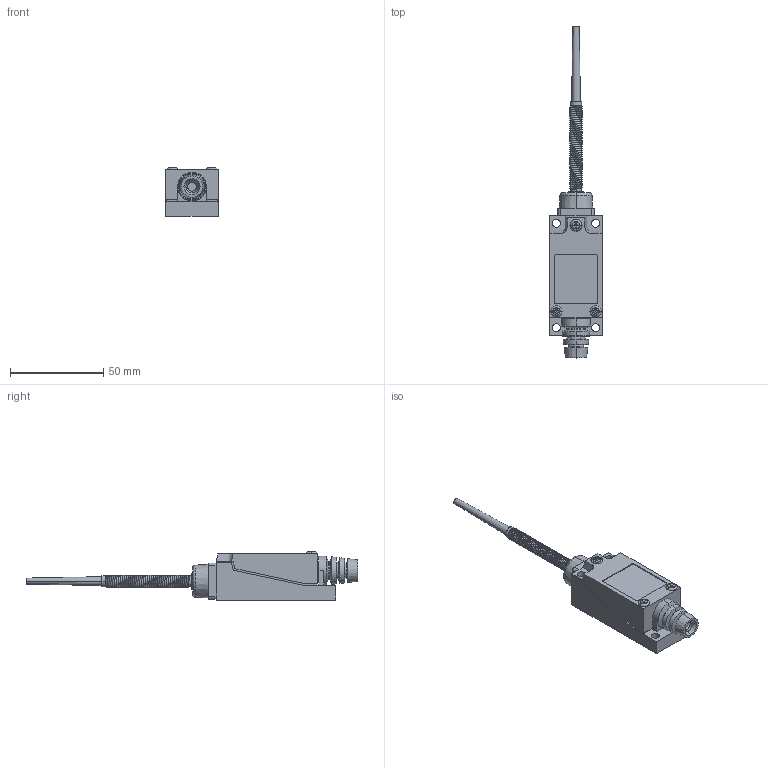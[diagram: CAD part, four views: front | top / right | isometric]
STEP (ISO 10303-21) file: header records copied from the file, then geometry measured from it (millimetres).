
FILE_DESCRIPTION (( 'STEP AP203' ), '1' );
FILE_NAME ('FM8166.STEP', '2018-06-20T16:25:53', ( '' ), ( '' ), 'SwSTEP 2.0', 'SolidWorks 2012', '' );
FILE_SCHEMA (( 'CONFIG_CONTROL_DESIGN' ));
Length unit declared in the file: millimetre
Products named in the file (1): FM8166
Bounding box: 28 x 178.05 x 25.9 mm (x, y, z)
Volume: 45360 mm3; surface area: 14205.6 mm2
Topology: 1 solids, 1 shells, 193 faces, 485 edges, 310 vertices
Faces by surface type: plane 98, cylinder 53, cone 28, torus 8, bspline 6
Entity records: 17701 total; most frequent: CARTESIAN_POINT 12973, ORIENTED_EDGE 970, DIRECTION 955, EDGE_CURVE 485, AXIS2_PLACEMENT_3D 326, VERTEX_POINT 310, LINE 303, VECTOR 303
